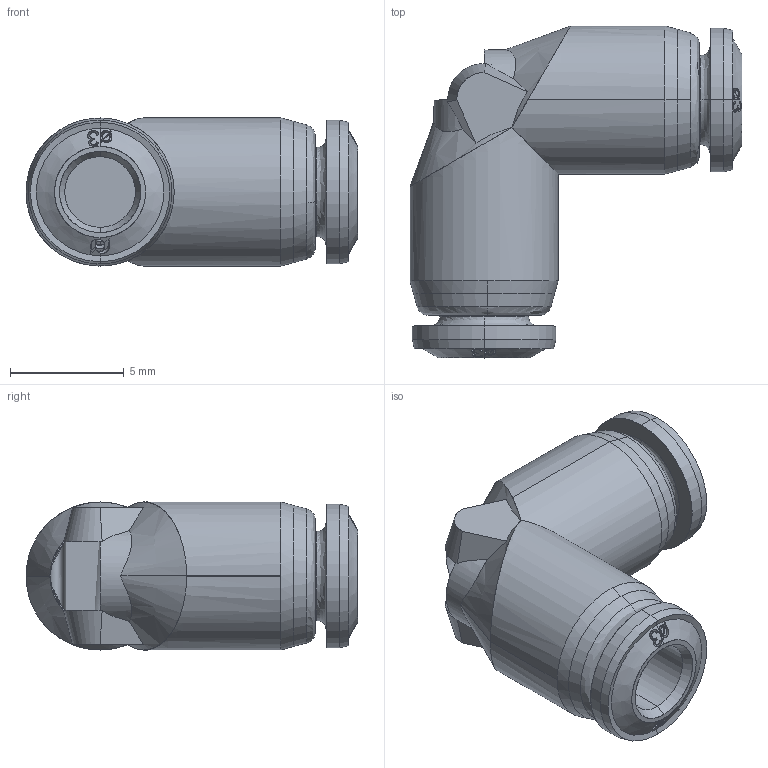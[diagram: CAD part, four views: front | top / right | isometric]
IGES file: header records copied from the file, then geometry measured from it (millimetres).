
Start section: SolidWorks IGES file using analytic representation for surfaces
Global section: file name: K:\Disegni Esecutivi\Serie 56000\ASSIEMI_56000\56130\ASSIEMI_PIENI_56130\5613000002.IGS; native system: SolidWorks 2008; preprocessor: SolidWorks 2008; author: cad02; date: 080220.155020; units: millimetre
Bounding box: 14.57 x 14.57 x 6.5 mm (x, y, z)
Surface area: 611.4 mm2 (no closed solid volume)
Topology: 0 solids, 0 shells, 209 faces, 2107 edges, 2106 vertices
Faces by surface type: bspline 140, revolution 69
